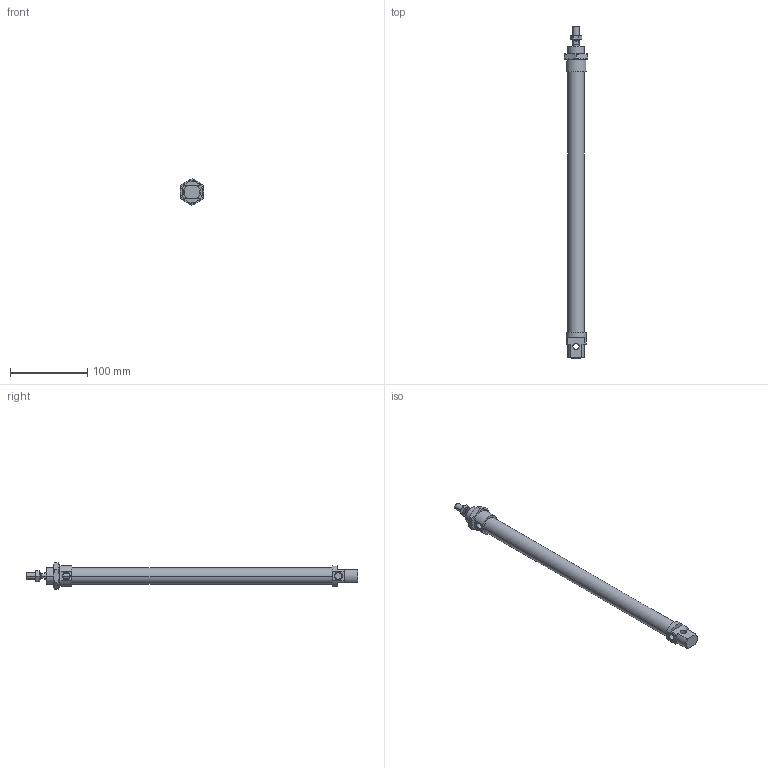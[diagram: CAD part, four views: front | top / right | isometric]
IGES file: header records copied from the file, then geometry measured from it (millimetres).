
Global section: file name: No Iges File Name specified; native system: Autodesk Inventor 2010; preprocessor: AutoDesk Inventor Iges Exporter R2010; author: rivolro1; date: 20090604.093315; units: millimetre
Bounding box: 30 x 430 x 34.64 mm (x, y, z)
Volume: 150253.5 mm3; surface area: 49591.6 mm2
Topology: 4 solids, 4 shells, 110 faces, 249 edges, 152 vertices
Faces by surface type: plane 41, cone 28, bspline 21, cylinder 14, revolution 6
